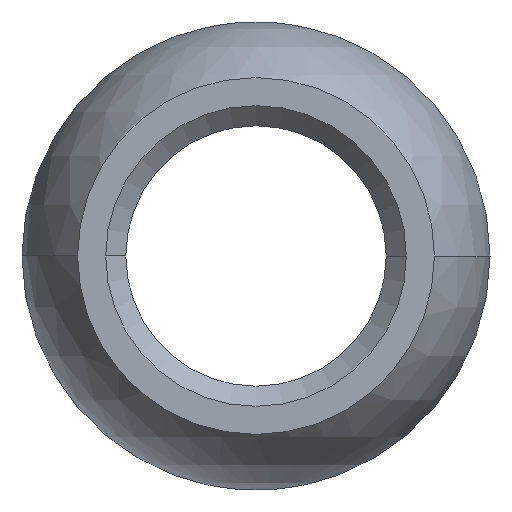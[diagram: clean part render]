
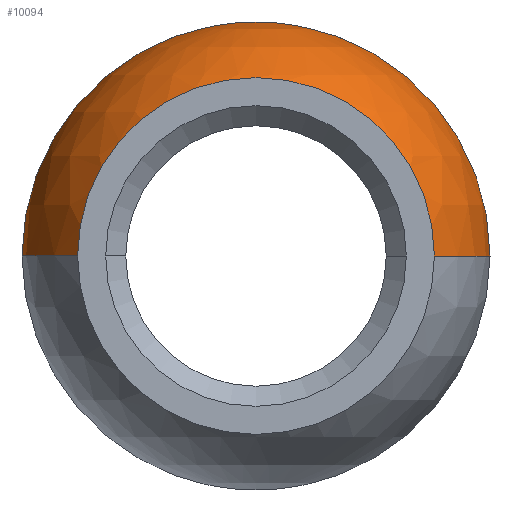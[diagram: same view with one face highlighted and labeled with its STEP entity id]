
A CAD part, front view. The second image highlights one B-rep face of the part: STEP entity #10094.
In plain terms, the highlighted spherical face has radius 9.271 mm.
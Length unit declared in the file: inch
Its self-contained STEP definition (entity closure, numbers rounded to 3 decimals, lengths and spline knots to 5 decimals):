
#828 = CARTESIAN_POINT ( 'NONE',  ( -0.27825, -0.23622, 0. ) ) ;
#1365 = VERTEX_POINT ( 'NONE', #11171 ) ;
#1371 = AXIS2_PLACEMENT_3D ( 'NONE', #8326, #1996, #9375 ) ;
#1996 = DIRECTION ( 'NONE',  ( 0., -1., 0. ) ) ;
#2063 = ORIENTED_EDGE ( 'NONE', *, *, #12698, .T. ) ;
#2286 = CARTESIAN_POINT ( 'NONE',  ( 0., -0.0075, 0. ) ) ;
#2784 = DIRECTION ( 'NONE',  ( 0., 0., -1. ) ) ;
#2797 = CARTESIAN_POINT ( 'NONE',  ( 0.36492, -0.0075, 0. ) ) ;
#3012 = DIRECTION ( 'NONE',  ( 0., 0., 1. ) ) ;
#3354 = DIRECTION ( 'NONE',  ( 1., 0., 0. ) ) ;
#3734 = CIRCLE ( 'NONE', #8489, 0.36492 ) ;
#3928 = CIRCLE ( 'NONE', #1371, 0.27825 ) ;
#4019 = ORIENTED_EDGE ( 'NONE', *, *, #4749, .T. ) ;
#4362 = DIRECTION ( 'NONE',  ( 1., 0., 0. ) ) ;
#4749 = EDGE_CURVE ( 'NONE', #11650, #9900, #11058, .T. ) ;
#4940 = ORIENTED_EDGE ( 'NONE', *, *, #8742, .F. ) ;
#5070 = AXIS2_PLACEMENT_3D ( 'NONE', #10689, #8580, #4362 ) ;
#7570 = FACE_OUTER_BOUND ( 'NONE', #7862, .T. ) ;
#7862 = EDGE_LOOP ( 'NONE', ( #2063, #4019, #4940, #12350 ) ) ;
#8326 = CARTESIAN_POINT ( 'NONE',  ( 0., -0.23622, 0. ) ) ;
#8401 = CIRCLE ( 'NONE', #11867, 0.365 ) ;
#8489 = AXIS2_PLACEMENT_3D ( 'NONE', #2286, #9659, #3354 ) ;
#8580 = DIRECTION ( 'NONE',  ( 0., 0., 1. ) ) ;
#8742 = EDGE_CURVE ( 'NONE', #1365, #9900, #3928, .T. ) ;
#9088 = CARTESIAN_POINT ( 'NONE',  ( 0., 0., 0. ) ) ;
#9313 = CARTESIAN_POINT ( 'NONE',  ( 0., 0., 0. ) ) ;
#9375 = DIRECTION ( 'NONE',  ( 1., 0., 0. ) ) ;
#9659 = DIRECTION ( 'NONE',  ( 0., -1., 0. ) ) ;
#9900 = VERTEX_POINT ( 'NONE', #828 ) ;
#10094 = ADVANCED_FACE ( 'NONE', ( #7570 ), #13154, .T. ) ;
#10151 = DIRECTION ( 'NONE',  ( -1., 0., 0. ) ) ;
#10375 = DIRECTION ( 'NONE',  ( 1., 0., 0. ) ) ;
#10689 = CARTESIAN_POINT ( 'NONE',  ( 0., 0., 0. ) ) ;
#10956 = EDGE_CURVE ( 'NONE', #12423, #1365, #8401, .T. ) ;
#11058 = CIRCLE ( 'NONE', #12369, 0.365 ) ;
#11171 = CARTESIAN_POINT ( 'NONE',  ( 0.27825, -0.23622, 0. ) ) ;
#11650 = VERTEX_POINT ( 'NONE', #12858 ) ;
#11867 = AXIS2_PLACEMENT_3D ( 'NONE', #9088, #2784, #10151 ) ;
#12350 = ORIENTED_EDGE ( 'NONE', *, *, #10956, .F. ) ;
#12369 = AXIS2_PLACEMENT_3D ( 'NONE', #9313, #3012, #10375 ) ;
#12423 = VERTEX_POINT ( 'NONE', #2797 ) ;
#12698 = EDGE_CURVE ( 'NONE', #12423, #11650, #3734, .T. ) ;
#12858 = CARTESIAN_POINT ( 'NONE',  ( -0.36492, -0.0075, 0. ) ) ;
#13154 = SPHERICAL_SURFACE ( 'NONE', #5070, 0.365 ) ;
